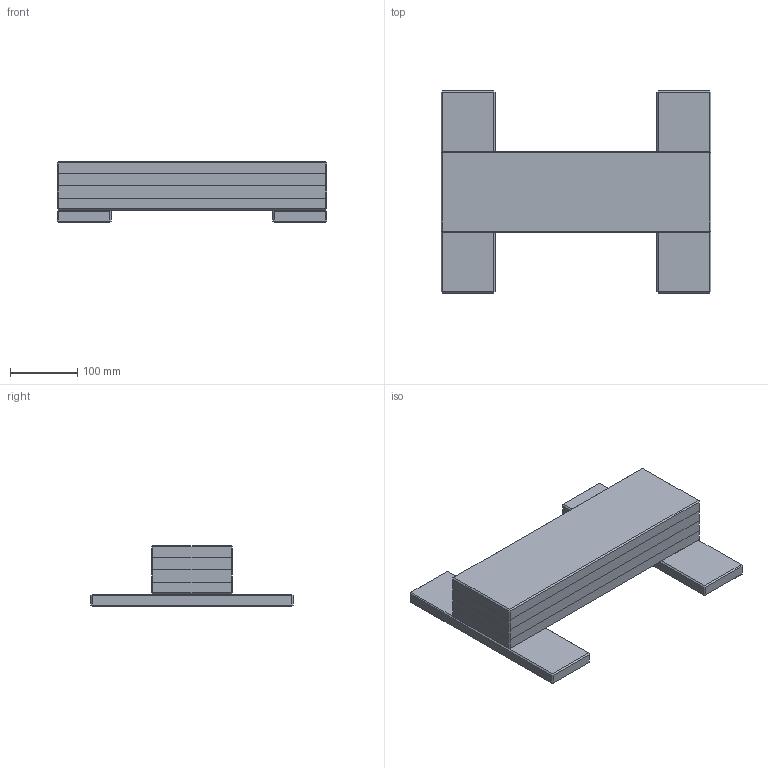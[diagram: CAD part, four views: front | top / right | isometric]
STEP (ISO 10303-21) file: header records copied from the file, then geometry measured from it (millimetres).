
FILE_DESCRIPTION(('Open CASCADE Model'),'2;1');
FILE_NAME('Open CASCADE Shape Model','2026-09-27T15:56:04',('Author'),( 'Open CASCADE'),'Open CASCADE STEP processor 7.9','Open CASCADE 7.9' ,'Unknown');
FILE_SCHEMA(('AUTOMOTIVE_DESIGN { 1 0 10303 214 1 1 1 1 }'));
Length unit declared in the file: millimetre
Products named in the file (7): balance-trainer-quadruple; foot-1; foot-2; rail-1; rail-2; rail-3; rail-4
Assembly tree (6 placements, depth 2):
  balance-trainer-quadruple
    foot-1
    foot-2
    rail-1
    rail-2
    rail-3
    rail-4
Bounding box: 400 x 300 x 90 mm (x, y, z)
Volume: 4309024 mm3; surface area: 575651.3 mm2
Topology: 6 solids, 6 shells, 108 faces, 216 edges, 120 vertices
Faces by surface type: plane 108
Entity records: 5610 total; most frequent: CARTESIAN_POINT 883, DIRECTION 878, LINE 648, VECTOR 648, ORIENTED_EDGE 432, PCURVE 432, DEFINITIONAL_REPRESENTATION 432, EDGE_CURVE 216
